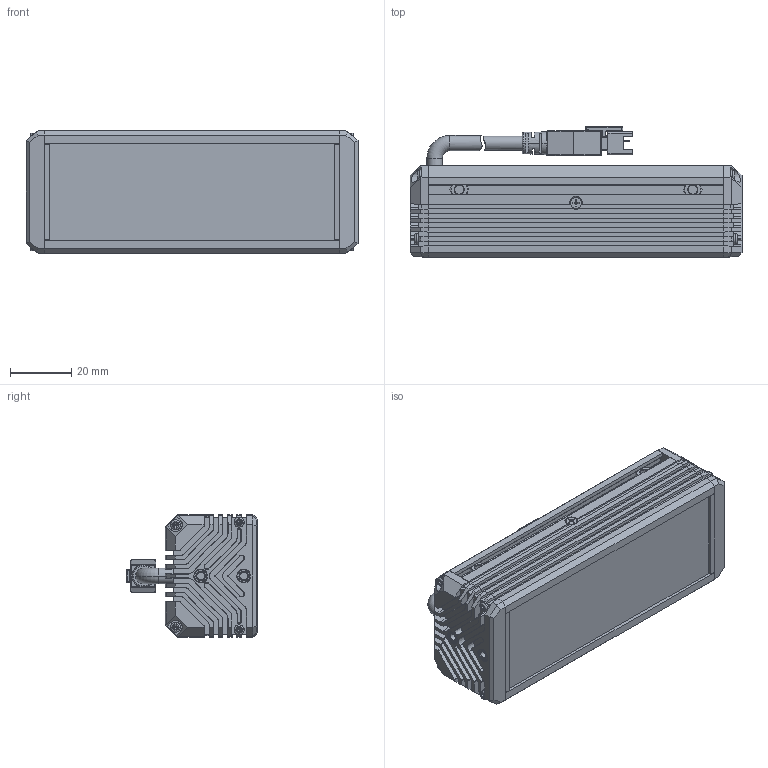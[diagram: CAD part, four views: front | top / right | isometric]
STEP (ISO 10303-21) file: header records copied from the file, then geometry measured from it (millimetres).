
FILE_DESCRIPTION((''),'2;1');
FILE_NAME('MV-LLDS-H-100-40-W-PL_ASM','2024-04-08T11:51:52',('huguozhe'),(''),'CREO PARAMETRIC BY PTC INC, 2020044','CREO PARAMETRIC BY PTC INC, 2020044','');
FILE_SCHEMA(('AUTOMOTIVE_DESIGN { 1 0 10303 214 1 1 1 1 }'));
Length unit declared in the file: millimetre
Products named in the file (15): DE-15-001136; DE-15-001135_ASM; DE-15-000466; DE-15-000465_ASM; DE-12-002350; TIP-M3X4-4_5X5-SO-ET-07061033; DE-12-002350_ASM; DE-12-001591; SC-KM2X6-BNI-GB819; XIANLAN_HEAD; CABLE_HEAD; CABLE_HEAD_ASM_ASM; 190100852; SC-PM2X6B-JMP; MV-LLDS-H-100-40-W-PL_ASM
Assembly tree (30 placements, depth 3):
  MV-LLDS-H-100-40-W-PL_ASM
    DE-15-001135_ASM
      DE-15-001136
    DE-15-000465_ASM
      DE-15-000466
    DE-12-002350_ASM  x2
      DE-12-002350
      TIP-M3X4-4_5X5-SO-ET-07061033
    DE-12-001591
    SC-KM2X6-BNI-GB819
    CABLE_HEAD_ASM_ASM
      XIANLAN_HEAD
      CABLE_HEAD
    190100852  x8
    SC-PM2X6B-JMP  x8
Bounding box: 108 x 42.65 x 40 mm (x, y, z)
Volume: 101158.8 mm3; surface area: 60777.5 mm2
Topology: 28 solids, 58 shells, 2644 faces, 6882 edges, 4349 vertices
Faces by surface type: plane 1274, cylinder 541, bspline 472, cone 304, torus 44, sphere 8, extrusion 1
Entity records: 47441 total; most frequent: CARTESIAN_POINT 11101, ORIENTED_EDGE 6082, DIRECTION 5817, EDGE_CURVE 3067, VECTOR 1993, LINE 1992, VERTEX_POINT 1967, AXIS2_PLACEMENT_3D 1912
